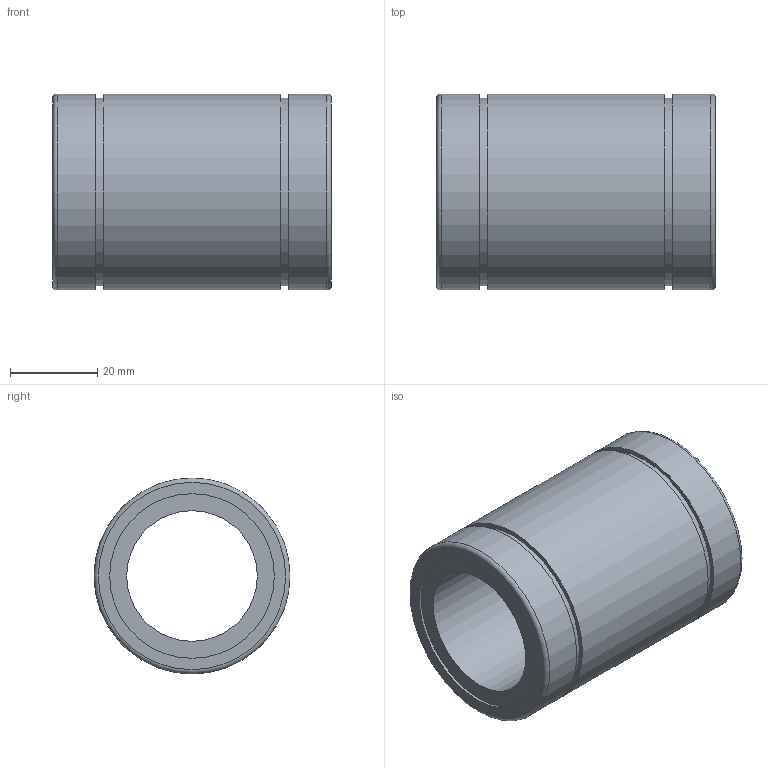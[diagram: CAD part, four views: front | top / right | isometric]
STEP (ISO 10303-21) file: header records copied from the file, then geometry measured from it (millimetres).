
FILE_DESCRIPTION(/* description */ ('STEP AP214'),/* implementation_level */ '2;1');
FILE_NAME(/* name */ '\\JOINapp01\Profiles\martins\Desktop\rolamento\LM30UU.step',/* time_stamp */ '2018-02-15T14:04:31-02:00',/* author */ ('martins'),/* organization */ ('TraceParts S.A.'),/* preprocessor_version */ 'ST-DEVELOPER v16.1',/* originating_system */ 'Autodesk Inventor 2016',/* authorisation */ ' ');
FILE_SCHEMA (('AUTOMOTIVE_DESIGN { 1 0 10303 214 3 1 1 }'));
Length unit declared in the file: millimetre
Products named in the file (2): lm30uu; Assembly13
Assembly tree (1 placements, depth 2):
  Assembly13
    lm30uu
Bounding box: 64 x 45 x 45 mm (x, y, z)
Volume: 55444.1 mm3; surface area: 17297.6 mm2
Topology: 1 solids, 1 shells, 199 faces, 532 edges, 355 vertices
Faces by surface type: plane 126, bspline 63, cylinder 8, torus 2
Full cylindrical faces by diameter (mm): 30 x1, 37.8 x2, 43 x2, 45 x3
Entity records: 6693 total; most frequent: CARTESIAN_POINT 2082, ORIENTED_EDGE 1038, DIRECTION 689, EDGE_CURVE 519, LINE 375, VECTOR 375, VERTEX_POINT 352, EDGE_LOOP 231
